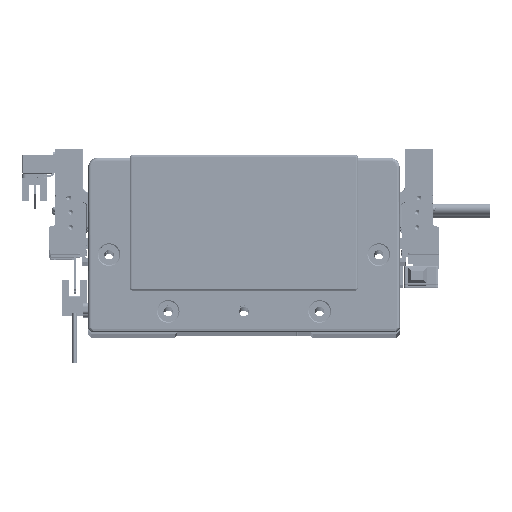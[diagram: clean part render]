
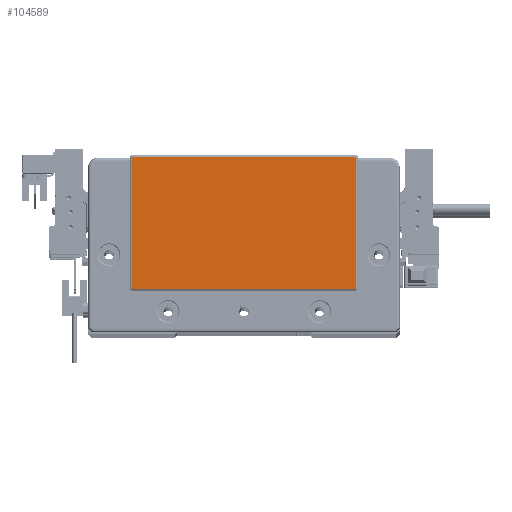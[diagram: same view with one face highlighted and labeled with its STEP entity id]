
A CAD part, top view. The second image highlights one B-rep face of the part: STEP entity #104589.
In plain terms, the highlighted planar face has unit normal (0, 0, 1) as drawn and (0, 0, -1) by its records, which use the part's own axes.
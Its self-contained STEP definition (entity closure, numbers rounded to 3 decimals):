
#2565 = EDGE_LOOP ( 'NONE', ( #45177, #52103, #85396, #87896, #88506, #49821, #65621, #31104 ) ) ;
#2870 = FACE_OUTER_BOUND ( 'NONE', #2565, .T. ) ;
#5476 = CARTESIAN_POINT ( 'NONE',  ( -59.25, -23.3, -2. ) ) ;
#7261 = VERTEX_POINT ( 'NONE', #75854 ) ;
#7998 = CIRCLE ( 'NONE', #70549, 0.5 ) ;
#10061 = CARTESIAN_POINT ( 'NONE',  ( 59.25, -23.3, -2. ) ) ;
#11220 = VECTOR ( 'NONE', #79240, 1000. ) ;
#11745 = DIRECTION ( 'NONE',  ( -1., 0., 0. ) ) ;
#12093 = VECTOR ( 'NONE', #64192, 1000. ) ;
#14271 = EDGE_CURVE ( 'NONE', #107625, #7261, #27917, .T. ) ;
#15358 = DIRECTION ( 'NONE',  ( 0., 0., -1. ) ) ;
#18418 = DIRECTION ( 'NONE',  ( -1., 0., 0. ) ) ;
#18573 = CARTESIAN_POINT ( 'NONE',  ( -58.75, -23.8, -2. ) ) ;
#18848 = EDGE_CURVE ( 'NONE', #82318, #37132, #93686, .T. ) ;
#19516 = DIRECTION ( 'NONE',  ( -1., 0., 0. ) ) ;
#19779 = DIRECTION ( 'NONE',  ( 1., 0., 0. ) ) ;
#24974 = EDGE_CURVE ( 'NONE', #93535, #82318, #61769, .T. ) ;
#25844 = AXIS2_PLACEMENT_3D ( 'NONE', #32061, #15358, #101749 ) ;
#26257 = LINE ( 'NONE', #43520, #11220 ) ;
#26471 = VERTEX_POINT ( 'NONE', #80073 ) ;
#27917 = LINE ( 'NONE', #10061, #12093 ) ;
#30609 = CARTESIAN_POINT ( 'NONE',  ( 58.75, -23.8, -2. ) ) ;
#31104 = ORIENTED_EDGE ( 'NONE', *, *, #45181, .T. ) ;
#32061 = CARTESIAN_POINT ( 'NONE',  ( 58.75, 45.3, -2. ) ) ;
#35680 = PLANE ( 'NONE',  #62599 ) ;
#37132 = VERTEX_POINT ( 'NONE', #5476 ) ;
#41627 = DIRECTION ( 'NONE',  ( -1., 0., 0. ) ) ;
#43484 = CARTESIAN_POINT ( 'NONE',  ( 59.25, 45.3, -2. ) ) ;
#43520 = CARTESIAN_POINT ( 'NONE',  ( -59.25, 45.3, -2. ) ) ;
#45177 = ORIENTED_EDGE ( 'NONE', *, *, #14271, .T. ) ;
#45181 = EDGE_CURVE ( 'NONE', #68689, #107625, #95720, .T. ) ;
#45349 = EDGE_CURVE ( 'NONE', #37132, #53369, #26257, .T. ) ;
#47443 = DIRECTION ( 'NONE',  ( 0., 0., -1. ) ) ;
#47681 = AXIS2_PLACEMENT_3D ( 'NONE', #63265, #98369, #19516 ) ;
#49821 = ORIENTED_EDGE ( 'NONE', *, *, #83197, .T. ) ;
#50358 = CARTESIAN_POINT ( 'NONE',  ( 58.75, 45.8, -2. ) ) ;
#52103 = ORIENTED_EDGE ( 'NONE', *, *, #108914, .T. ) ;
#53369 = VERTEX_POINT ( 'NONE', #88492 ) ;
#53653 = EDGE_CURVE ( 'NONE', #26471, #68689, #54315, .T. ) ;
#54315 = LINE ( 'NONE', #89429, #95023 ) ;
#55244 = CARTESIAN_POINT ( 'NONE',  ( 0., 0., -2. ) ) ;
#61769 = LINE ( 'NONE', #18573, #89237 ) ;
#62599 = AXIS2_PLACEMENT_3D ( 'NONE', #55244, #71940, #18418 ) ;
#63265 = CARTESIAN_POINT ( 'NONE',  ( -58.75, -23.3, -2. ) ) ;
#64192 = DIRECTION ( 'NONE',  ( 0., -1., 0. ) ) ;
#64754 = CARTESIAN_POINT ( 'NONE',  ( -58.75, 45.3, -2. ) ) ;
#65621 = ORIENTED_EDGE ( 'NONE', *, *, #53653, .T. ) ;
#68689 = VERTEX_POINT ( 'NONE', #50358 ) ;
#69831 = DIRECTION ( 'NONE',  ( -1., 0., 0. ) ) ;
#70549 = AXIS2_PLACEMENT_3D ( 'NONE', #102688, #95718, #41627 ) ;
#71940 = DIRECTION ( 'NONE',  ( 0., 0., -1. ) ) ;
#75481 = CIRCLE ( 'NONE', #103115, 0.5 ) ;
#75854 = CARTESIAN_POINT ( 'NONE',  ( 59.25, -23.3, -2. ) ) ;
#79240 = DIRECTION ( 'NONE',  ( 0., 1., 0. ) ) ;
#80073 = CARTESIAN_POINT ( 'NONE',  ( -58.75, 45.8, -2. ) ) ;
#81305 = CARTESIAN_POINT ( 'NONE',  ( -58.75, -23.8, -2. ) ) ;
#82318 = VERTEX_POINT ( 'NONE', #81305 ) ;
#83197 = EDGE_CURVE ( 'NONE', #53369, #26471, #75481, .T. ) ;
#85396 = ORIENTED_EDGE ( 'NONE', *, *, #24974, .T. ) ;
#87896 = ORIENTED_EDGE ( 'NONE', *, *, #18848, .T. ) ;
#88492 = CARTESIAN_POINT ( 'NONE',  ( -59.25, 45.3, -2. ) ) ;
#88506 = ORIENTED_EDGE ( 'NONE', *, *, #45349, .T. ) ;
#89237 = VECTOR ( 'NONE', #69831, 1000. ) ;
#89429 = CARTESIAN_POINT ( 'NONE',  ( 58.75, 45.8, -2. ) ) ;
#93535 = VERTEX_POINT ( 'NONE', #30609 ) ;
#93686 = CIRCLE ( 'NONE', #47681, 0.5 ) ;
#95023 = VECTOR ( 'NONE', #19779, 1000. ) ;
#95718 = DIRECTION ( 'NONE',  ( 0., 0., -1. ) ) ;
#95720 = CIRCLE ( 'NONE', #25844, 0.5 ) ;
#98369 = DIRECTION ( 'NONE',  ( 0., 0., -1. ) ) ;
#101749 = DIRECTION ( 'NONE',  ( -1., 0., 0. ) ) ;
#102688 = CARTESIAN_POINT ( 'NONE',  ( 58.75, -23.3, -2. ) ) ;
#103115 = AXIS2_PLACEMENT_3D ( 'NONE', #64754, #47443, #11745 ) ;
#104589 = ADVANCED_FACE ( 'NONE', ( #2870 ), #35680, .T. ) ;
#107625 = VERTEX_POINT ( 'NONE', #43484 ) ;
#108914 = EDGE_CURVE ( 'NONE', #7261, #93535, #7998, .T. ) ;
